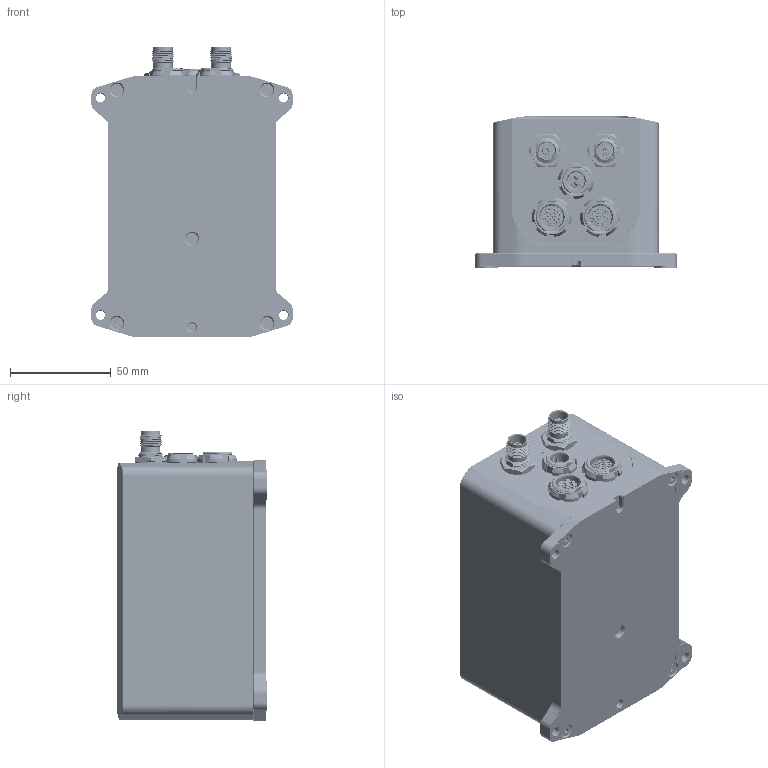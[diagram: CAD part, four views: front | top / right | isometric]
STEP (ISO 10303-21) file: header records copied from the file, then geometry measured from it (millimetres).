
FILE_DESCRIPTION (( 'STEP AP214' ), '1' );
FILE_NAME ('MC-NGIS-D.STEP', '2014-11-10T15:36:01', ( '' ), ( '' ), 'SwSTEP 2.0', 'SolidWorks 2013', '' );
FILE_SCHEMA (( 'AUTOMOTIVE_DESIGN' ));
Length unit declared in the file: millimetre
Products named in the file (1): MC-NGIS-D
Bounding box: 100 x 75 x 144.5 mm (x, y, z)
Surface area: 106334.7 mm2 (no closed solid volume)
Topology: 0 solids, 48 shells, 4754 faces, 13482 edges, 8959 vertices
Faces by surface type: cylinder 1712, plane 1680, cone 642, bspline 457, torus 261, sphere 2
Entity records: 263735 total; most frequent: CARTESIAN_POINT 99373, ORIENTED_EDGE 26720, DIRECTION 18391, EDGE_CURVE 13366, VERTEX_POINT 8955, AXIS2_PLACEMENT_3D 6790, B_SPLINE_CURVE_WITH_KNOTS 5477, EDGE_LOOP 5171
